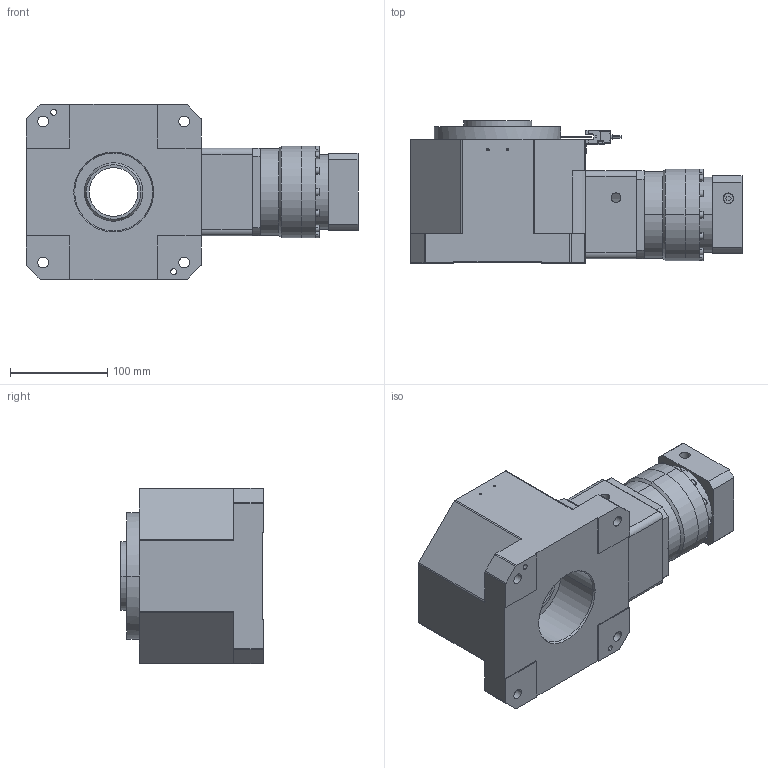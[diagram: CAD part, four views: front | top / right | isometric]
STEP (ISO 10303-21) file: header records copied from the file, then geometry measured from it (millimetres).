
FILE_DESCRIPTION((''),'2;1');
FILE_NAME('ZCM180_ASM','2021-01-07T17:09:21',('Administrator'),(''),'CREO PARAMETRIC BY PTC INC, 2017260','CREO PARAMETRIC BY PTC INC, 2017260','');
FILE_SCHEMA(('CONFIG_CONTROL_DESIGN','SHAPE_APPEARANCE_LAYERS_GROUPS'));
Length unit declared in the file: millimetre
Products named in the file (18): LOOP_ZCM180; _2497_10; _10; _4398_10; _100; ST-303_1_2_ASM; HOLDER_ZCH150; ROCKER_ZCM180; SENSOR_ZCM180_ASM; BEARING-SEAT_ZCM180; WASHER_ZCM180; HU_GEAR_ZCM180_ASM; _1000; _000; VRB90-L1_750W__19-0001_ASM; BASE-SOLID_ZCM180; ZCM180_ASM
Assembly tree (17 placements, depth 4):
  ZCM180_ASM
    LOOP_ZCM180
    SENSOR_ZCM180_ASM
      ST-303_1_2_ASM
        _2497_10
        _10
        _4398_10
        _100
      HOLDER_ZCH150
      ROCKER_ZCM180
    HU_GEAR_ZCM180_ASM
      BEARING-SEAT_ZCM180
      WASHER_ZCM180
    VRB90-L1_750W__19-0001_ASM
      _1000
      _1000
      _000
    BASE-SOLID_ZCM180
Bounding box: 340.9 x 146 x 180 mm (x, y, z)
Volume: 4056263.1 mm3; surface area: 363383.6 mm2
Topology: 13 solids, 13 shells, 1035 faces, 2618 edges, 1645 vertices
Faces by surface type: plane 487, cylinder 424, cone 84, torus 32, sphere 8
Entity records: 35166 total; most frequent: CARTESIAN_POINT 5727, DIRECTION 5561, ORIENTED_EDGE 5080, EDGE_CURVE 2540, AXIS2_PLACEMENT_3D 1999, VERTEX_POINT 1645, VECTOR 1563, LINE 1563
